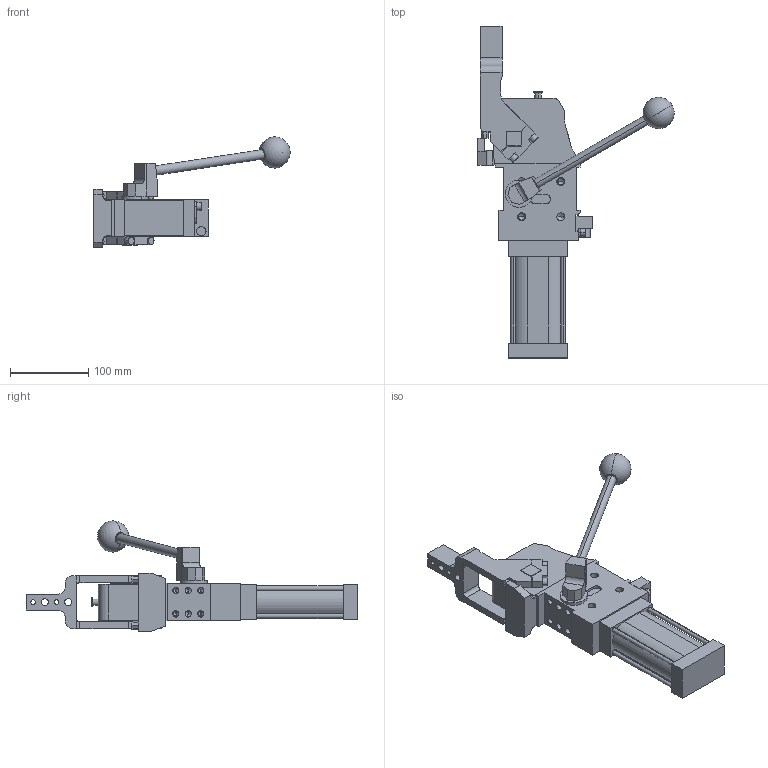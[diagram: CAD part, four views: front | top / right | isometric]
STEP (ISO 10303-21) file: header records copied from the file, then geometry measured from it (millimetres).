
FILE_DESCRIPTION (( 'STEP AP214' ), '1' );
FILE_NAME ('cplm50lath1ci1g_107.STEP', '2023-01-26T13:29:40', ( '' ), ( '' ), 'SwSTEP 2.0', 'SolidWorks 2022', '' );
FILE_SCHEMA (( 'AUTOMOTIVE_DESIGN' ));
Length unit declared in the file: millimetre
Products named in the file (5): cplm50lath1ci1g_107; meccanica_cplm_50_tassello_esterno; leva_h1c_cpl50t; comando_manuale_cplm_50; blocchetto_VEP_0
Assembly tree (4 placements, depth 2):
  cplm50lath1ci1g_107
    meccanica_cplm_50_tassello_esterno
    blocchetto_VEP_0
    leva_h1c_cpl50t
    comando_manuale_cplm_50
Bounding box: 251.06 x 424.5 x 141 mm (x, y, z)
Volume: 1491601.5 mm3; surface area: 186950.4 mm2
Topology: 4 solids, 4 shells, 466 faces, 1209 edges, 757 vertices
Faces by surface type: plane 245, cylinder 169, cone 50, sphere 2
Entity records: 15494 total; most frequent: CARTESIAN_POINT 2467, DIRECTION 2456, ORIENTED_EDGE 2316, EDGE_CURVE 1158, AXIS2_PLACEMENT_3D 833, VECTOR 790, LINE 790, VERTEX_POINT 754
